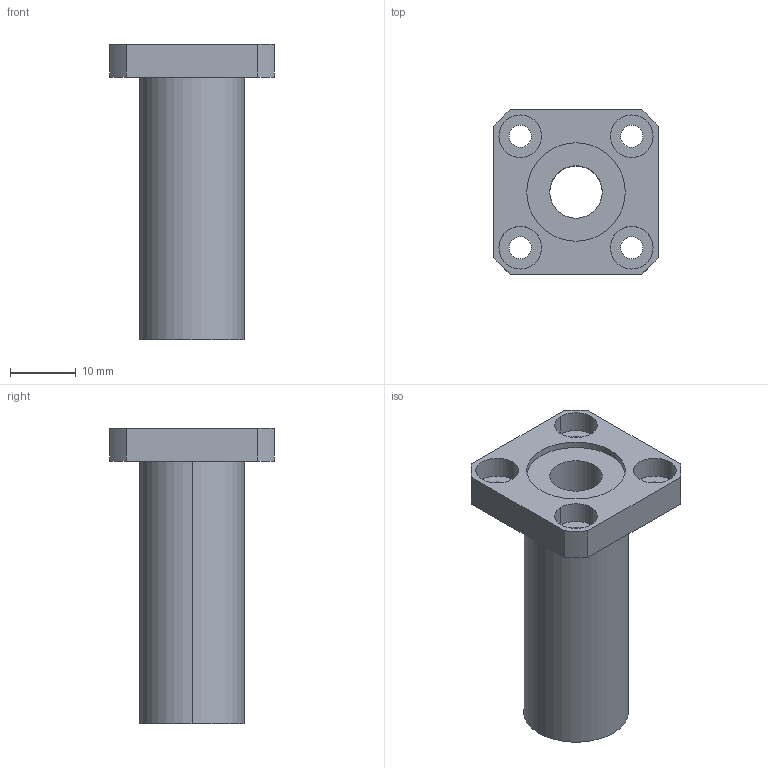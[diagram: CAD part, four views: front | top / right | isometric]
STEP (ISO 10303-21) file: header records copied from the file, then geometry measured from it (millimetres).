
FILE_DESCRIPTION((''),'2;1');
FILE_NAME('C:\Documents and Settings\ｿﾀﾀ蠑ｷ1\ｹﾙﾅﾁ ﾈｭｸ饅\ｺﾎﾇｰﾆﾄﾀﾏ\ﾁｦﾇｰ\LMEK__LUU\LMEK8LUU.stp','2005-06-15T11:00:37',('ｿﾀﾀ蠑ｷ1'),(''),'Autodesk Inventor 9','Autodesk Inventor 9','');
FILE_SCHEMA(('AUTOMOTIVE_DESIGN { 1 0 10303 214 1 1 1 1 }'));
Length unit declared in the file: millimetre
Products named in the file (1): LMEK__(L)
Bounding box: 25 x 25 x 45 mm (x, y, z)
Volume: 8094.5 mm3; surface area: 5051.9 mm2
Topology: 1 solids, 1 shells, 41 faces, 96 edges, 64 vertices
Faces by surface type: bspline 20, cylinder 12, plane 9
Entity records: 1457 total; most frequent: CARTESIAN_POINT 486, DIRECTION 196, ORIENTED_EDGE 192, EDGE_CURVE 96, AXIS2_PLACEMENT_3D 78, VERTEX_POINT 64, EDGE_LOOP 58, CIRCLE 56
